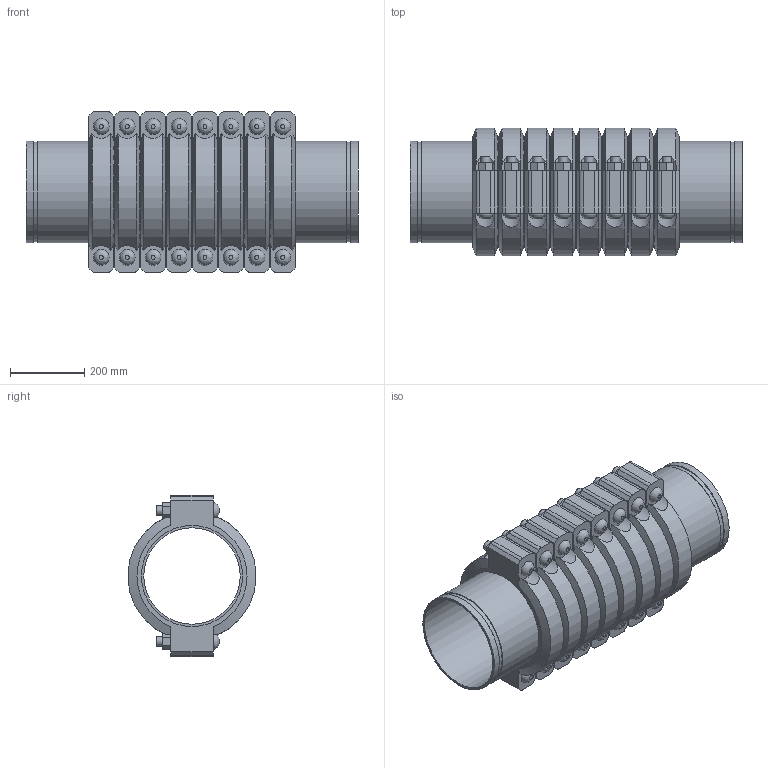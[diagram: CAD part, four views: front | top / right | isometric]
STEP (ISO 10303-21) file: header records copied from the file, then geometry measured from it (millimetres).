
FILE_DESCRIPTION(/* description */ ('VIC EXPANSION JOINT 8 COUPLINGS COMPRESSED STYLE 155 (OGS)','CAx-IF Rec.Pracs.---Representation and Presentation of Product Manufacturing Information (PMI)---4.0---2014-10-13'),/* implementation_level */ '2;1');
FILE_NAME(/* name */ 'C:\Users\kkamble\AppData\Roaming\Autodesk\ApplicationPlugins\Victaulic.Temp\A709\Victaulic_IPS_Expansion Joint_Compressed_8 Couplings_Style 155 (OGS)_10 (250).stp',/* time_stamp */ '2021-06-27T00:36:45+02:00',/* author */ ('kkamble'),/* organization */ ('Victaulic'),/* preprocessor_version */ 'ST-DEVELOPER v17.2',/* originating_system */ 'Autodesk Inventor 2019',/* authorisation */ '');
FILE_SCHEMA (('AP242_MANAGED_MODEL_BASED_3D_ENGINEERING_MIM_LF { 1 0 10303 442 1 1 4 }'));
Length unit declared in the file: inch
Products named in the file (4): 155-10.0; Nipple-10.0; Nipple-10.0_1; 077-8 Coup-10.0
Assembly tree (17 placements, depth 2):
  155-10.0
    Nipple-10.0  x2
    Nipple-10.0_1  x7
    077-8 Coup-10.0  x8
Bounding box: 895.35 x 344.9 x 435.1 mm (x, y, z)
Volume: 27663175 mm3; surface area: 3896174.3 mm2
Topology: 17 solids, 33 shells, 596 faces, 1430 edges, 1000 vertices
Faces by surface type: plane 342, cylinder 206, cone 32, bspline 16
Full cylindrical faces by diameter (mm): 25.4 x32, 27.432 x16, 260.35 x9, 264.16 x8, 268.275 x18, 273.05 x43
Entity records: 3130 total; most frequent: CARTESIAN_POINT 681, DIRECTION 489, ORIENTED_EDGE 410, EDGE_CURVE 205, AXIS2_PLACEMENT_3D 200, VERTEX_POINT 146, EDGE_LOOP 111, CIRCLE 96
